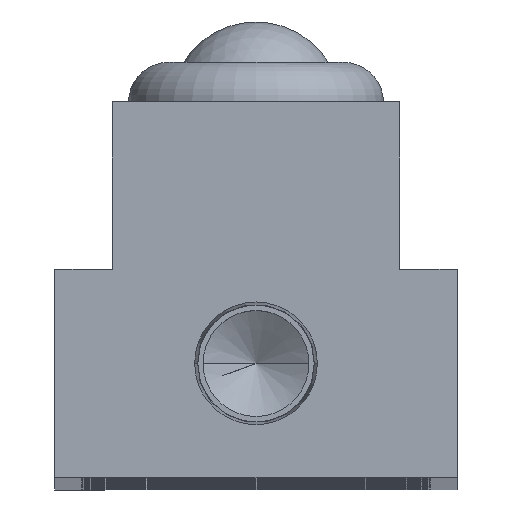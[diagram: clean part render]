
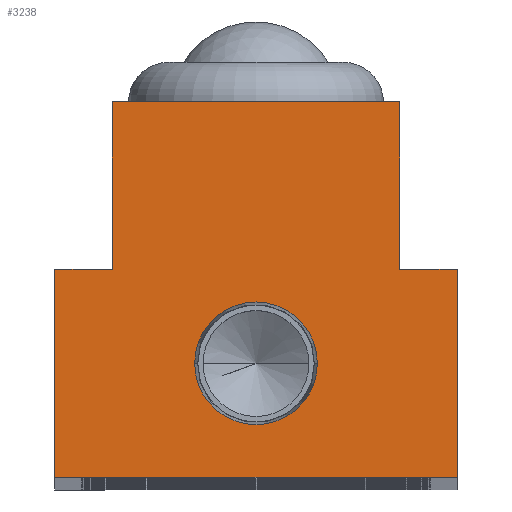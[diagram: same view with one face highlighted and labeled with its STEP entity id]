
A CAD part, top view. The second image highlights one B-rep face of the part: STEP entity #3238.
In plain terms, the highlighted planar face has unit normal (0, 0, 1).
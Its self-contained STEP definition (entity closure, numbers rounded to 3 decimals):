
#78 = VECTOR ( 'NONE', #9167, 1000. ) ;
#344 = CARTESIAN_POINT ( 'NONE',  ( -10.7, 28., 0. ) ) ;
#435 = ORIENTED_EDGE ( 'NONE', *, *, #3819, .T. ) ;
#552 = LINE ( 'NONE', #4926, #4312 ) ;
#643 = EDGE_CURVE ( 'NONE', #11296, #3205, #9130, .T. ) ;
#884 = CARTESIAN_POINT ( 'NONE',  ( 10.7, 15.5, 0. ) ) ;
#1149 = CARTESIAN_POINT ( 'NONE',  ( 10.7, 15.5, 0. ) ) ;
#1271 = EDGE_CURVE ( 'NONE', #13787, #3970, #6958, .T. ) ;
#1514 = ORIENTED_EDGE ( 'NONE', *, *, #1271, .T. ) ;
#1572 = VECTOR ( 'NONE', #12428, 1000. ) ;
#1652 = CARTESIAN_POINT ( 'NONE',  ( 15., 15.5, 0. ) ) ;
#1834 = EDGE_CURVE ( 'NONE', #13725, #13787, #6227, .T. ) ;
#2108 = AXIS2_PLACEMENT_3D ( 'NONE', #11553, #4641, #12723 ) ;
#2185 = FACE_BOUND ( 'NONE', #4031, .T. ) ;
#2245 = ORIENTED_EDGE ( 'NONE', *, *, #12578, .T. ) ;
#2515 = VECTOR ( 'NONE', #11762, 1000. ) ;
#2597 = CARTESIAN_POINT ( 'NONE',  ( 10.7, 28., 0. ) ) ;
#2997 = CARTESIAN_POINT ( 'NONE',  ( 4.574, 8.5, 0. ) ) ;
#3128 = LINE ( 'NONE', #1149, #78 ) ;
#3205 = VERTEX_POINT ( 'NONE', #2597 ) ;
#3238 = ADVANCED_FACE ( 'NONE', ( #2185, #8291 ), #13111, .T. ) ;
#3263 = CARTESIAN_POINT ( 'NONE',  ( -10.7, 28., 0. ) ) ;
#3273 = CARTESIAN_POINT ( 'NONE',  ( -4.574, 8.5, 0. ) ) ;
#3542 = ORIENTED_EDGE ( 'NONE', *, *, #11511, .F. ) ;
#3685 = CARTESIAN_POINT ( 'NONE',  ( -10.7, 28., 0. ) ) ;
#3819 = EDGE_CURVE ( 'NONE', #3970, #13797, #4507, .T. ) ;
#3844 = CARTESIAN_POINT ( 'NONE',  ( 0., 0., 0. ) ) ;
#3970 = VERTEX_POINT ( 'NONE', #11427 ) ;
#4025 = LINE ( 'NONE', #344, #9778 ) ;
#4031 = EDGE_LOOP ( 'NONE', ( #3542, #4895 ) ) ;
#4312 = VECTOR ( 'NONE', #13022, 1000. ) ;
#4336 = CARTESIAN_POINT ( 'NONE',  ( -15., 0., 0. ) ) ;
#4507 = LINE ( 'NONE', #8814, #13732 ) ;
#4641 = DIRECTION ( 'NONE',  ( 0., 0., 1. ) ) ;
#4688 = EDGE_CURVE ( 'NONE', #14892, #13725, #5565, .T. ) ;
#4895 = ORIENTED_EDGE ( 'NONE', *, *, #12784, .F. ) ;
#4926 = CARTESIAN_POINT ( 'NONE',  ( 15., 0., 0. ) ) ;
#4946 = ORIENTED_EDGE ( 'NONE', *, *, #643, .T. ) ;
#5023 = AXIS2_PLACEMENT_3D ( 'NONE', #6158, #14240, #7296 ) ;
#5284 = CARTESIAN_POINT ( 'NONE',  ( 10.7, 28., 0. ) ) ;
#5332 = ORIENTED_EDGE ( 'NONE', *, *, #1834, .T. ) ;
#5565 = LINE ( 'NONE', #3685, #2515 ) ;
#5941 = CARTESIAN_POINT ( 'NONE',  ( -10.7, 15.5, 0. ) ) ;
#6158 = CARTESIAN_POINT ( 'NONE',  ( 0., 8.5, 0. ) ) ;
#6227 = LINE ( 'NONE', #13520, #12008 ) ;
#6385 = ORIENTED_EDGE ( 'NONE', *, *, #4688, .T. ) ;
#6700 = ORIENTED_EDGE ( 'NONE', *, *, #8785, .T. ) ;
#6958 = LINE ( 'NONE', #4336, #1572 ) ;
#7296 = DIRECTION ( 'NONE',  ( 1., 0., 0. ) ) ;
#7317 = DIRECTION ( 'NONE',  ( 1., 0., 0. ) ) ;
#7733 = DIRECTION ( 'NONE',  ( -1., 0., 0. ) ) ;
#8291 = FACE_OUTER_BOUND ( 'NONE', #10669, .T. ) ;
#8785 = EDGE_CURVE ( 'NONE', #13797, #14145, #552, .T. ) ;
#8814 = CARTESIAN_POINT ( 'NONE',  ( 15., 0., 0. ) ) ;
#9130 = LINE ( 'NONE', #5284, #11867 ) ;
#9167 = DIRECTION ( 'NONE',  ( -1., 0., 0. ) ) ;
#9657 = VERTEX_POINT ( 'NONE', #3273 ) ;
#9778 = VECTOR ( 'NONE', #10700, 1000. ) ;
#9997 = DIRECTION ( 'NONE',  ( 1., 0., 0. ) ) ;
#10669 = EDGE_LOOP ( 'NONE', ( #4946, #12831, #6385, #5332, #1514, #435, #6700, #2245 ) ) ;
#10700 = DIRECTION ( 'NONE',  ( -1., 0., 0. ) ) ;
#11107 = CIRCLE ( 'NONE', #2108, 4.574 ) ;
#11296 = VERTEX_POINT ( 'NONE', #884 ) ;
#11427 = CARTESIAN_POINT ( 'NONE',  ( -15., 0., 0. ) ) ;
#11511 = EDGE_CURVE ( 'NONE', #12395, #9657, #11107, .T. ) ;
#11553 = CARTESIAN_POINT ( 'NONE',  ( 0., 8.5, 0. ) ) ;
#11762 = DIRECTION ( 'NONE',  ( 0., -1., 0. ) ) ;
#11839 = CARTESIAN_POINT ( 'NONE',  ( -15., 15.5, 0. ) ) ;
#11867 = VECTOR ( 'NONE', #13384, 1000. ) ;
#11884 = CARTESIAN_POINT ( 'NONE',  ( 15., 0., 0. ) ) ;
#12008 = VECTOR ( 'NONE', #7733, 1000. ) ;
#12155 = CIRCLE ( 'NONE', #5023, 4.574 ) ;
#12395 = VERTEX_POINT ( 'NONE', #2997 ) ;
#12428 = DIRECTION ( 'NONE',  ( 0., -1., 0. ) ) ;
#12578 = EDGE_CURVE ( 'NONE', #14145, #11296, #3128, .T. ) ;
#12723 = DIRECTION ( 'NONE',  ( 1., 0., 0. ) ) ;
#12757 = EDGE_CURVE ( 'NONE', #3205, #14892, #4025, .T. ) ;
#12784 = EDGE_CURVE ( 'NONE', #9657, #12395, #12155, .T. ) ;
#12831 = ORIENTED_EDGE ( 'NONE', *, *, #12757, .T. ) ;
#13022 = DIRECTION ( 'NONE',  ( 0., 1., 0. ) ) ;
#13111 = PLANE ( 'NONE',  #13966 ) ;
#13384 = DIRECTION ( 'NONE',  ( 0., 1., 0. ) ) ;
#13520 = CARTESIAN_POINT ( 'NONE',  ( -10.7, 15.5, 0. ) ) ;
#13725 = VERTEX_POINT ( 'NONE', #5941 ) ;
#13732 = VECTOR ( 'NONE', #9997, 1000. ) ;
#13787 = VERTEX_POINT ( 'NONE', #11839 ) ;
#13797 = VERTEX_POINT ( 'NONE', #11884 ) ;
#13966 = AXIS2_PLACEMENT_3D ( 'NONE', #3844, #14251, #7317 ) ;
#14145 = VERTEX_POINT ( 'NONE', #1652 ) ;
#14240 = DIRECTION ( 'NONE',  ( 0., 0., 1. ) ) ;
#14251 = DIRECTION ( 'NONE',  ( 0., 0., 1. ) ) ;
#14892 = VERTEX_POINT ( 'NONE', #3263 ) ;
